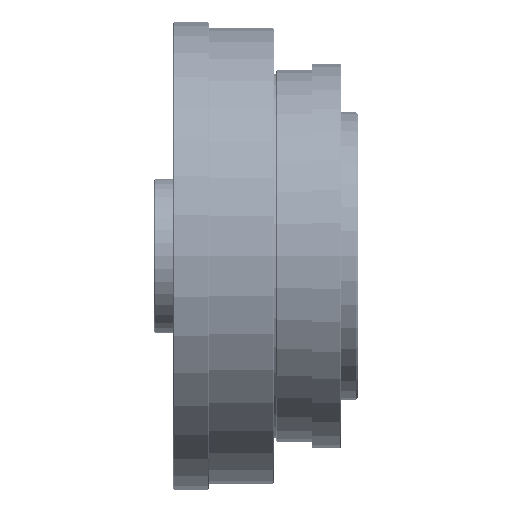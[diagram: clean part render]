
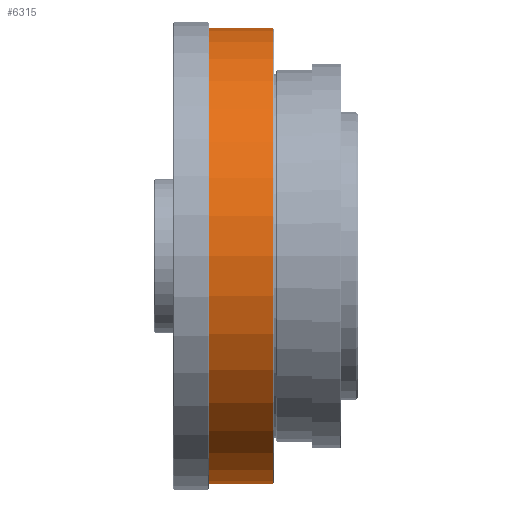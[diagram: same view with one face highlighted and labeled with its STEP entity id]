
A CAD part, front view. The second image highlights one B-rep face of the part: STEP entity #6315.
In plain terms, the highlighted cylindrical face has radius 95 mm (diameter 190 mm), a full revolution.
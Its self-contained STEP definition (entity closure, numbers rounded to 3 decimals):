
#5923=CYLINDRICAL_SURFACE('',#22297,95.);
#6315=ADVANCED_FACE('',(#8080,#8081),#5923,.T.);
#8080=FACE_BOUND('',#9576,.T.);
#8081=FACE_BOUND('',#9577,.T.);
#9576=EDGE_LOOP('',(#11641));
#9577=EDGE_LOOP('',(#11642));
#11641=ORIENTED_EDGE('',*,*,#18657,.F.);
#11642=ORIENTED_EDGE('',*,*,#18656,.T.);
#16598=VERTEX_POINT('',#39987);
#16599=VERTEX_POINT('',#39990);
#18656=EDGE_CURVE('',#16598,#16598,#21173,.T.);
#18657=EDGE_CURVE('',#16599,#16599,#21174,.T.);
#21173=CIRCLE('',#22294,95.);
#21174=CIRCLE('',#22296,95.);
#22294=AXIS2_PLACEMENT_3D('',#39986,#24649,#24650);
#22296=AXIS2_PLACEMENT_3D('',#39989,#24653,#24654);
#22297=AXIS2_PLACEMENT_3D('',#39991,#24655,#24656);
#24649=DIRECTION('',(1.,0.,0.));
#24650=DIRECTION('',(0.,0.,-1.));
#24653=DIRECTION('',(1.,0.,0.));
#24654=DIRECTION('',(0.,0.,-1.));
#24655=DIRECTION('',(1.,0.,0.));
#24656=DIRECTION('',(0.,0.,-1.));
#39986=CARTESIAN_POINT('',(-31.7,0.,0.));
#39987=CARTESIAN_POINT('',(-31.7,0.,-95.));
#39989=CARTESIAN_POINT('',(-0.5,0.,0.));
#39990=CARTESIAN_POINT('',(-0.5,0.,-95.));
#39991=CARTESIAN_POINT('',(-58.,0.,0.));
